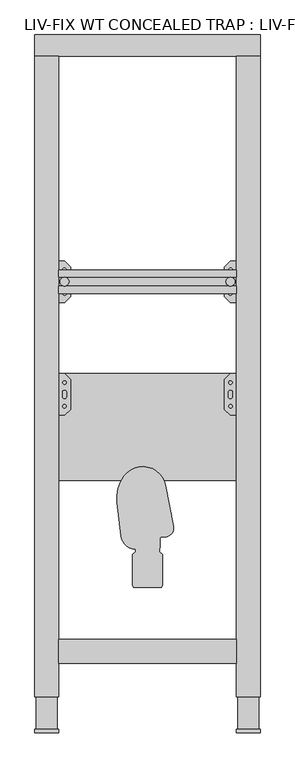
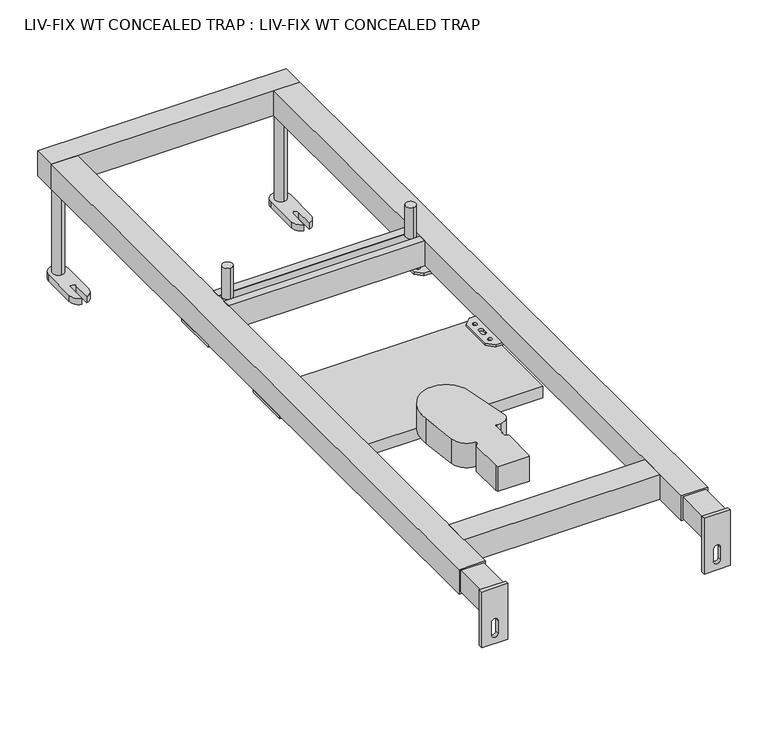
"""IFC4 building model written with IfcOpenShell, lengths in millimetres: flow terminal geometry, LIV-FIX WT CONCEALED TRAP : LIV-FIX WT CONCEALED TRAP."""

from ifc_helpers import new_model, si_unit, point, frame, frame_2d, origin, origin_with_axes, place, context, project, spatial, polyline, circle_curve, trimmed, segment, composite_curve, outline, extrude, source, transform, mapped, element, save
from ifc_brep_helpers import plane_surface, cylinder_surface, revolved_surface, advanced_brep


def liv_fix_wt_concealed_trap_liv_fix_wt_concealed_trap_b806bd56(model_context):
    return source(origin(), model_context, "Body", "SolidModel", [
        advanced_brep(
        [(-51.1296158, 387.8610746, 196.0), (-44.8448136, 331.7187828, 196.0), (-19.9999914, 309.5000073, 196.0), (-19.9999914, 305.0000173, 196.0), (-24.9999985, 300.0000221, 196.0), (-24.9999985, 249.0000081, 196.0), (-23.9282027, 245.0, 196.0), (23.9282027, 245.0, 196.0), (24.9999985, 249.0000081, 196.0), (24.9999985, 300.0000221, 196.0), (20.0004491, 305.0000173, 196.0), (20.0004491, 310.2634387, 196.0), (21.0018908, 312.5002872, 196.0), (21.0018908, 327.4999958, 196.0), (23.0027243, 329.5000048, 196.0), (29.0000066, 329.5000048, 196.0), (43.7379002, 347.291864, 196.0), (30.6884595, 416.3861133, 196.0), (-39.0904022, 432.4424265, 196.0), (-51.1296158, 387.8610746, 156.0), (-39.0904022, 432.4424265, 156.0), (30.6884595, 416.3861133, 156.0), (43.7379002, 347.291864, 156.0), (29.0000057, 329.5000073, 156.0), (23.0027243, 329.5000048, 156.0), (21.0027218, 327.5000023, 156.0), (21.0018908, 312.5002872, 156.0), (20.0004491, 310.2634387, 156.0), (20.0004491, 305.0000173, 156.0), (24.9999985, 300.0000221, 156.0), (24.9999985, 249.0000081, 156.0), (23.9282027, 245.0, 156.0), (-23.9282027, 245.0, 156.0), (-24.9999985, 249.0000081, 156.0), (-24.9999985, 300.0000221, 156.0), (-19.9999914, 305.0000173, 156.0), (-19.9999914, 309.5000073, 156.0), (-44.8448045, 331.7187734, 156.0)],
        [
            (0, 1),
            (1, 2, circle_curve(frame((-19.9999914, 334.5000073, 196.0), z_axis=(0.0, 0.0, 1.0), x_axis=(-1.0, 0.0, 0.0)), 25.0)),
            (2, 3),
            (3, 4),
            (4, 5),
            (5, 6),
            (6, 7),
            (7, 8),
            (8, 9),
            (9, 10),
            (10, 11),
            (11, 12, circle_curve(frame((18.0030261, 312.5002872, 196.0), z_axis=(0.0, 0.0, 1.0), x_axis=(-1.0, 0.0, 0.0)), 2.9988647)),
            (12, 13),
            (13, 14, circle_curve(frame((23.0027243, 327.5000023, 196.0), z_axis=(0.0, 0.0, -1.0), x_axis=(-1.0, 0.0, 0.0)), 2.0000025)),
            (14, 15),
            (15, 16, circle_curve(frame((29.0000057, 344.5000073, 196.0), z_axis=(0.0, 0.0, 1.0), x_axis=(-1.0, 0.0, 0.0)), 15.0)),
            (16, 17),
            (17, 18, circle_curve(frame((-7.7173197, 409.1326306, 196.0), z_axis=(0.0, 0.0, 1.0), x_axis=(-1.0, 0.0, 0.0)), 39.0847399)),
            (18, 0, circle_curve(frame((11.4793141, 394.8697791, 196.0), z_axis=(0.0, 0.0, 1.0), x_axis=(-1.0, 0.0, 0.0)), 63.0000003)),
            (19, 20, circle_curve(frame((11.4793141, 394.8697791, 156.0), z_axis=(0.0, 0.0, -1.0), x_axis=(-1.0, 0.0, 0.0)), 63.0000003)),
            (20, 21, circle_curve(frame((-7.7173197, 409.1326306, 156.0), z_axis=(0.0, 0.0, -1.0), x_axis=(-1.0, 0.0, 0.0)), 39.0847399)),
            (21, 22),
            (22, 23, circle_curve(frame((29.0000057, 344.5000073, 156.0), z_axis=(0.0, 0.0, -1.0), x_axis=(-1.0, 0.0, 0.0)), 15.0)),
            (23, 24),
            (24, 25, circle_curve(frame((23.0027243, 327.5000023, 156.0), z_axis=(0.0, 0.0, 1.0), x_axis=(-1.0, 0.0, 0.0)), 2.0000025)),
            (25, 26),
            (26, 27, circle_curve(frame((18.0030261, 312.5002872, 156.0), z_axis=(0.0, 0.0, -1.0), x_axis=(-1.0, 0.0, 0.0)), 2.9988647)),
            (27, 28),
            (28, 29),
            (29, 30),
            (30, 31),
            (31, 32),
            (32, 33),
            (33, 34),
            (34, 35),
            (35, 36),
            (36, 37, circle_curve(frame((-19.9999914, 334.5000073, 156.0), z_axis=(0.0, 0.0, -1.0), x_axis=(-1.0, 0.0, 0.0)), 25.0)),
            (37, 19),
            (0, 19),
            (37, 1),
            (36, 2),
            (35, 3),
            (34, 4),
            (33, 5),
            (32, 6),
            (31, 7),
            (30, 8),
            (29, 9),
            (28, 10),
            (27, 11),
            (26, 12),
            (25, 13),
            (24, 14),
            (23, 15),
            (22, 16),
            (21, 17),
            (20, 18),
        ],
        [
            plane_surface(frame((-51.1296158, 387.8610746, 196.0), z_axis=(0.0, 0.0, 1.0000000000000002), x_axis=(0.1112492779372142, -0.9937925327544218, 0.0))),
            plane_surface(frame((-51.1296158, 387.8610746, 156.0), z_axis=(0.0, 0.0, -1.0000000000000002), x_axis=(-0.1112492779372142, 0.9937925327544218, 0.0))),
            plane_surface(frame((-51.1296158, 387.8610746, 196.0), z_axis=(-0.9937925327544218, -0.1112492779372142, 0.0), x_axis=(0.0, 0.0, -1.0))),
            cylinder_surface(frame((-19.9999914, 334.5000073, 156.0), z_axis=(0.0, 0.0, 1.0), x_axis=(-1.0, 0.0, 0.0)), 25.0),
            plane_surface(frame((-19.9999914, 309.5000073, 196.0), z_axis=(-1.0, 0.0, 0.0), x_axis=(0.0, 0.0, -1.0))),
            plane_surface(frame((-19.9999914, 305.0000173, 196.0), z_axis=(-0.7071059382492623, 0.707107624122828, 0.0), x_axis=(0.0, 0.0, -1.0))),
            plane_surface(frame((-24.9999985, 300.0000221, 196.0), z_axis=(-1.0, 0.0, 0.0), x_axis=(0.0, 0.0, -1.0))),
            plane_surface(frame((-24.9999985, 249.0000081, 196.0), z_axis=(-0.9659260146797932, -0.2588183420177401, 0.0), x_axis=(0.0, 0.0, -1.0))),
            plane_surface(frame((-23.9282027, 245.0, 196.0), z_axis=(0.0, -1.0, 0.0), x_axis=(0.0, 0.0, -1.0))),
            plane_surface(frame((23.9282027, 245.0, 196.0), z_axis=(0.9659260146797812, -0.2588183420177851, 0.0), x_axis=(0.0, 0.0, -1.0))),
            plane_surface(frame((24.9999985, 249.0000081, 196.0), z_axis=(1.0, 0.0, 0.0), x_axis=(0.0, 0.0, -1.0))),
            plane_surface(frame((24.9999985, 300.0000221, 196.0), z_axis=(0.7071383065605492, 0.7070752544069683, 0.0), x_axis=(0.0, 0.0, -1.0))),
            plane_surface(frame((20.0004491, 305.0000173, 196.0), z_axis=(1.0, 0.0, 0.0), x_axis=(0.0, 0.0, -1.0))),
            cylinder_surface(frame((18.0030261, 312.5002872, 156.0), z_axis=(0.0, 0.0, 1.0), x_axis=(-1.0, 0.0, 0.0)), 2.9988647),
            plane_surface(frame((21.0018908, 312.5002872, 196.0), z_axis=(1.0, 0.0, 0.0), x_axis=(0.0, 0.0, -1.0))),
            revolved_surface(polyline([(21.0027218, 327.5000023, 156.0), (21.0027218, 327.5000023, 196.0)]), (23.0027243, 327.5000023, 156.0), (0.0, 0.0, -1.0)),
            plane_surface(frame((23.0027243, 329.5000048, 196.0), z_axis=(0.0, -1.0, 0.0), x_axis=(0.0, 0.0, -1.0))),
            cylinder_surface(frame((29.0000057, 344.5000073, 156.0), z_axis=(0.0, 0.0, 1.0), x_axis=(-1.0, 0.0, 0.0)), 15.0),
            plane_surface(frame((43.7379002, 347.291864, 196.0), z_axis=(0.982628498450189, 0.1855834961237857, 0.0), x_axis=(0.0, 0.0, -1.0))),
            cylinder_surface(frame((-7.7173197, 409.1326306, 156.0), z_axis=(0.0, 0.0, 1.0), x_axis=(-1.0, 0.0, 0.0)), 39.0847399),
            cylinder_surface(frame((11.4793141, 394.8697791, 156.0), z_axis=(0.0, 0.0, 1.0), x_axis=(-1.0, 0.0, 0.0)), 63.0000003),
        ],
        [
            (0, [[1, 2, 3, 4, 5, 6, 7, 8, 9, 10, 11, 12, 13, 14, 15, 16, 17, 18, 19]]),
            (1, [[20, 21, 22, 23, 24, 25, 26, 27, 28, 29, 30, 31, 32, 33, 34, 35, 36, 37, 38]]),
            (2, [[-1, 39, -38, 40]]),
            (3, [[-2, -40, -37, 41]]),
            (4, [[-3, -41, -36, 42]]),
            (5, [[-4, -42, -35, 43]]),
            (6, [[-5, -43, -34, 44]]),
            (7, [[-6, -44, -33, 45]]),
            (8, [[-7, -45, -32, 46]]),
            (9, [[-8, -46, -31, 47]]),
            (10, [[-9, -47, -30, 48]]),
            (11, [[-10, -48, -29, 49]]),
            (12, [[-11, -49, -28, 50]]),
            (13, [[-12, -50, -27, 51]]),
            (14, [[-13, -51, -26, 52]]),
            (15, [[-14, -52, -25, 53]]),
            (16, [[-15, -53, -24, 54]]),
            (17, [[-16, -54, -23, 55]]),
            (18, [[-17, -55, -22, 56]]),
            (19, [[-18, -56, -21, 57]]),
            (20, [[-19, -57, -20, -39]]),
        ],
    ),
        extrude(outline(composite_curve([segment(trimmed(circle_curve(frame_2d((-140.0, 760.0)), 7.5154833), [point((-140.0, 767.5154833))], [point((-140.0, 752.4845167))], False, "CARTESIAN"), True, "CONTINUOUS"), segment(trimmed(circle_curve(frame_2d((-140.0, 760.0)), 7.5154833), [point((-140.0, 752.4845167))], [point((-140.0, 767.5154833))], False, "CARTESIAN"), True, "CONTINUOUS")], self_intersect=False)), frame((0.0, 0.0, 200.0), z_axis=(0.0, 0.0, 1.0), x_axis=(1.0, 0.0, 0.0)), (0.0, 0.0, 1.0), 50.0),
        extrude(outline(composite_curve([segment(trimmed(circle_curve(frame_2d((140.0, 760.0)), 7.5154833), [point((140.0, 767.5154833))], [point((140.0, 752.4845167))], False, "CARTESIAN"), True, "CONTINUOUS"), segment(trimmed(circle_curve(frame_2d((140.0, 760.0)), 7.5154833), [point((140.0, 752.4845167))], [point((140.0, 767.5154833))], False, "CARTESIAN"), True, "CONTINUOUS")], self_intersect=False)), frame((0.0, 0.0, 200.0), z_axis=(0.0, 0.0, 1.0), x_axis=(1.0, 0.0, 0.0)), (0.0, 0.0, 1.0), 50.0),
        extrude(outline(polyline([(740.0, 200.0), (752.4845167, 200.0), (752.4845167, 198.5), (741.5, 198.5), (741.5, 161.5), (778.5, 161.5), (778.5, 198.5), (767.5154833, 198.5), (767.5154833, 200.0), (780.0, 200.0), (780.0, 160.0), (740.0, 160.0), (740.0, 200.0)])), frame((-150.0, 0.0, 0.0), z_axis=(1.0, 0.0, 0.0), x_axis=(0.0, 1.0, 0.0)), (0.0, 0.0, 1.0), 300.0),
        extrude(outline(polyline([(140.0, 725.0), (130.0, 735.0), (130.0, 785.0), (140.0, 795.0), (190.0, 795.0), (190.0, 725.0), (140.0, 725.0)]), holes=[composite_curve([segment(trimmed(circle_curve(frame_2d((175.0, 760.0)), 4.5), [point((175.0, 755.5))], [point((175.0, 764.5))], True, "CARTESIAN"), True, "CONTINUOUS"), segment(trimmed(circle_curve(frame_2d((175.0, 760.0)), 4.5), [point((175.0, 764.5))], [point((175.0, 755.5))], True, "CARTESIAN"), True, "CONTINUOUS")], self_intersect=False), composite_curve([segment(trimmed(circle_curve(frame_2d((175.0, 780.0)), 4.5), [point((175.0, 775.5))], [point((175.0, 784.5))], True, "CARTESIAN"), True, "CONTINUOUS"), segment(trimmed(circle_curve(frame_2d((175.0, 780.0)), 4.5), [point((175.0, 784.5))], [point((175.0, 775.5))], True, "CARTESIAN"), True, "CONTINUOUS")], self_intersect=False), composite_curve([segment(trimmed(circle_curve(frame_2d((175.0, 740.0)), 4.5), [point((175.0, 735.5))], [point((175.0, 744.5))], True, "CARTESIAN"), True, "CONTINUOUS"), segment(trimmed(circle_curve(frame_2d((175.0, 740.0)), 4.5), [point((175.0, 744.5))], [point((175.0, 735.5))], True, "CARTESIAN"), True, "CONTINUOUS")], self_intersect=False), composite_curve([segment(trimmed(circle_curve(frame_2d((140.0, 780.0)), 2.9795218), [point((140.0, 777.0204782))], [point((140.0, 782.9795218))], True, "CARTESIAN"), True, "CONTINUOUS"), segment(trimmed(circle_curve(frame_2d((140.0, 780.0)), 2.9795218), [point((140.0, 782.9795218))], [point((140.0, 777.0204782))], True, "CARTESIAN"), True, "CONTINUOUS")], self_intersect=False), composite_curve([segment(trimmed(circle_curve(frame_2d((140.0, 740.0)), 2.9795218), [point((140.0, 737.0204782))], [point((140.0, 742.9795218))], True, "CARTESIAN"), True, "CONTINUOUS"), segment(trimmed(circle_curve(frame_2d((140.0, 740.0)), 2.9795218), [point((140.0, 742.9795218))], [point((140.0, 737.0204782))], True, "CARTESIAN"), True, "CONTINUOUS")], self_intersect=False), composite_curve([segment(trimmed(circle_curve(frame_2d((140.0, 763.5)), 3.5), [point((143.5, 763.5))], [point((136.5, 763.5))], True, "CARTESIAN"), True, "CONTINUOUS"), segment(polyline([(136.5, 763.5), (136.5, 756.5)]), True, "CONTINUOUS"), segment(trimmed(circle_curve(frame_2d((140.0, 756.5)), 3.5), [point((136.5, 756.5))], [point((143.5, 756.5))], True, "CARTESIAN"), True, "CONTINUOUS"), segment(polyline([(143.5, 756.5), (143.5, 763.5)]), True, "CONTINUOUS")], self_intersect=False)]), frame((0.0, 0.0, 156.0), z_axis=(0.0, 0.0, 1.0), x_axis=(1.0, 0.0, 0.0)), (0.0, 0.0, 1.0), 4.0),
        extrude(outline(polyline([(-140.0, 725.0), (-190.0, 725.0), (-190.0, 795.0), (-140.0, 795.0), (-130.0, 785.0), (-130.0, 735.0), (-140.0, 725.0)]), holes=[composite_curve([segment(trimmed(circle_curve(frame_2d((-175.0, 760.0)), 4.5), [point((-175.0, 755.5))], [point((-175.0, 764.5))], True, "CARTESIAN"), True, "CONTINUOUS"), segment(trimmed(circle_curve(frame_2d((-175.0, 760.0)), 4.5), [point((-175.0, 764.5))], [point((-175.0, 755.5))], True, "CARTESIAN"), True, "CONTINUOUS")], self_intersect=False), composite_curve([segment(trimmed(circle_curve(frame_2d((-175.0, 780.0)), 4.5), [point((-175.0, 775.5))], [point((-175.0, 784.5))], True, "CARTESIAN"), True, "CONTINUOUS"), segment(trimmed(circle_curve(frame_2d((-175.0, 780.0)), 4.5), [point((-175.0, 784.5))], [point((-175.0, 775.5))], True, "CARTESIAN"), True, "CONTINUOUS")], self_intersect=False), composite_curve([segment(trimmed(circle_curve(frame_2d((-175.0, 740.0)), 4.5), [point((-175.0, 735.5))], [point((-175.0, 744.5))], True, "CARTESIAN"), True, "CONTINUOUS"), segment(trimmed(circle_curve(frame_2d((-175.0, 740.0)), 4.5), [point((-175.0, 744.5))], [point((-175.0, 735.5))], True, "CARTESIAN"), True, "CONTINUOUS")], self_intersect=False), composite_curve([segment(trimmed(circle_curve(frame_2d((-140.0, 780.0)), 2.9795218), [point((-140.0, 777.0204782))], [point((-140.0, 782.9795218))], True, "CARTESIAN"), True, "CONTINUOUS"), segment(trimmed(circle_curve(frame_2d((-140.0, 780.0)), 2.9795218), [point((-140.0, 782.9795218))], [point((-140.0, 777.0204782))], True, "CARTESIAN"), True, "CONTINUOUS")], self_intersect=False), composite_curve([segment(trimmed(circle_curve(frame_2d((-140.0, 740.0)), 2.9795218), [point((-140.0, 737.0204782))], [point((-140.0, 742.9795218))], True, "CARTESIAN"), True, "CONTINUOUS"), segment(trimmed(circle_curve(frame_2d((-140.0, 740.0)), 2.9795218), [point((-140.0, 742.9795218))], [point((-140.0, 737.0204782))], True, "CARTESIAN"), True, "CONTINUOUS")], self_intersect=False), composite_curve([segment(polyline([(-143.5, 763.5), (-143.5, 756.5)]), True, "CONTINUOUS"), segment(trimmed(circle_curve(frame_2d((-140.0, 756.5)), 3.5), [point((-143.5, 756.5))], [point((-136.5, 756.5))], True, "CARTESIAN"), True, "CONTINUOUS"), segment(polyline([(-136.5, 756.5), (-136.5, 763.5)]), True, "CONTINUOUS"), segment(trimmed(circle_curve(frame_2d((-140.0, 763.5)), 3.5), [point((-136.5, 763.5))], [point((-143.5, 763.5))], True, "CARTESIAN"), True, "CONTINUOUS")], self_intersect=False)]), frame((0.0, 0.0, 156.0), z_axis=(0.0, 0.0, 1.0), x_axis=(1.0, 0.0, 0.0)), (0.0, 0.0, 1.0), 4.0),
        extrude(outline(polyline([(149.0, 425.0), (-149.0, 425.0), (-149.0, 605.0), (149.0, 605.0), (149.0, 425.0)])), frame((0.0, 0.0, 138.0), z_axis=(0.0, 0.0, 1.0), x_axis=(1.0, 0.0, 0.0)), (0.0, 0.0, 1.0), 18.0),
        extrude(outline(polyline([(140.0, 535.0), (130.0, 545.0), (130.0, 595.0), (140.0, 605.0), (190.0, 605.0), (190.0, 535.0), (140.0, 535.0)]), holes=[composite_curve([segment(trimmed(circle_curve(frame_2d((175.0, 570.0)), 4.5), [point((175.0, 565.5))], [point((175.0, 574.5))], True, "CARTESIAN"), True, "CONTINUOUS"), segment(trimmed(circle_curve(frame_2d((175.0, 570.0)), 4.5), [point((175.0, 574.5))], [point((175.0, 565.5))], True, "CARTESIAN"), True, "CONTINUOUS")], self_intersect=False), composite_curve([segment(trimmed(circle_curve(frame_2d((175.0, 590.0)), 4.5), [point((175.0, 585.5))], [point((175.0, 594.5))], True, "CARTESIAN"), True, "CONTINUOUS"), segment(trimmed(circle_curve(frame_2d((175.0, 590.0)), 4.5), [point((175.0, 594.5))], [point((175.0, 585.5))], True, "CARTESIAN"), True, "CONTINUOUS")], self_intersect=False), composite_curve([segment(trimmed(circle_curve(frame_2d((175.0, 550.0)), 4.5), [point((175.0, 545.5))], [point((175.0, 554.5))], True, "CARTESIAN"), True, "CONTINUOUS"), segment(trimmed(circle_curve(frame_2d((175.0, 550.0)), 4.5), [point((175.0, 554.5))], [point((175.0, 545.5))], True, "CARTESIAN"), True, "CONTINUOUS")], self_intersect=False), composite_curve([segment(trimmed(circle_curve(frame_2d((140.0, 590.0)), 2.9795218), [point((140.0, 587.0204782))], [point((140.0, 592.9795218))], True, "CARTESIAN"), True, "CONTINUOUS"), segment(trimmed(circle_curve(frame_2d((140.0, 590.0)), 2.9795218), [point((140.0, 592.9795218))], [point((140.0, 587.0204782))], True, "CARTESIAN"), True, "CONTINUOUS")], self_intersect=False), composite_curve([segment(trimmed(circle_curve(frame_2d((140.0, 550.0)), 2.9795218), [point((140.0, 547.0204782))], [point((140.0, 552.9795218))], True, "CARTESIAN"), True, "CONTINUOUS"), segment(trimmed(circle_curve(frame_2d((140.0, 550.0)), 2.9795218), [point((140.0, 552.9795218))], [point((140.0, 547.0204782))], True, "CARTESIAN"), True, "CONTINUOUS")], self_intersect=False), composite_curve([segment(trimmed(circle_curve(frame_2d((140.0, 573.5)), 3.5), [point((143.5, 573.5))], [point((136.5, 573.5))], True, "CARTESIAN"), True, "CONTINUOUS"), segment(polyline([(136.5, 573.5), (136.5, 566.5)]), True, "CONTINUOUS"), segment(trimmed(circle_curve(frame_2d((140.0, 566.5)), 3.5), [point((136.5, 566.5))], [point((143.5, 566.5))], True, "CARTESIAN"), True, "CONTINUOUS"), segment(polyline([(143.5, 566.5), (143.5, 573.5)]), True, "CONTINUOUS")], self_intersect=False)]), frame((0.0, 0.0, 156.0), z_axis=(0.0, 0.0, 1.0), x_axis=(1.0, 0.0, 0.0)), (0.0, 0.0, 1.0), 4.0),
        extrude(outline(polyline([(-140.0, 535.0), (-190.0, 535.0), (-190.0, 605.0), (-140.0, 605.0), (-130.0, 595.0), (-130.0, 545.0), (-140.0, 535.0)]), holes=[composite_curve([segment(trimmed(circle_curve(frame_2d((-175.0, 570.0)), 4.5), [point((-175.0, 565.5))], [point((-175.0, 574.5))], True, "CARTESIAN"), True, "CONTINUOUS"), segment(trimmed(circle_curve(frame_2d((-175.0, 570.0)), 4.5), [point((-175.0, 574.5))], [point((-175.0, 565.5))], True, "CARTESIAN"), True, "CONTINUOUS")], self_intersect=False), composite_curve([segment(trimmed(circle_curve(frame_2d((-175.0, 590.0)), 4.5), [point((-175.0, 585.5))], [point((-175.0, 594.5))], True, "CARTESIAN"), True, "CONTINUOUS"), segment(trimmed(circle_curve(frame_2d((-175.0, 590.0)), 4.5), [point((-175.0, 594.5))], [point((-175.0, 585.5))], True, "CARTESIAN"), True, "CONTINUOUS")], self_intersect=False), composite_curve([segment(trimmed(circle_curve(frame_2d((-175.0, 550.0)), 4.5), [point((-175.0, 545.5))], [point((-175.0, 554.5))], True, "CARTESIAN"), True, "CONTINUOUS"), segment(trimmed(circle_curve(frame_2d((-175.0, 550.0)), 4.5), [point((-175.0, 554.5))], [point((-175.0, 545.5))], True, "CARTESIAN"), True, "CONTINUOUS")], self_intersect=False), composite_curve([segment(trimmed(circle_curve(frame_2d((-140.0, 590.0)), 2.9795218), [point((-140.0, 587.0204782))], [point((-140.0, 592.9795218))], True, "CARTESIAN"), True, "CONTINUOUS"), segment(trimmed(circle_curve(frame_2d((-140.0, 590.0)), 2.9795218), [point((-140.0, 592.9795218))], [point((-140.0, 587.0204782))], True, "CARTESIAN"), True, "CONTINUOUS")], self_intersect=False), composite_curve([segment(trimmed(circle_curve(frame_2d((-140.0, 550.0)), 2.9795218), [point((-140.0, 547.0204782))], [point((-140.0, 552.9795218))], True, "CARTESIAN"), True, "CONTINUOUS"), segment(trimmed(circle_curve(frame_2d((-140.0, 550.0)), 2.9795218), [point((-140.0, 552.9795218))], [point((-140.0, 547.0204782))], True, "CARTESIAN"), True, "CONTINUOUS")], self_intersect=False), composite_curve([segment(polyline([(-143.5, 573.5), (-143.5, 566.5)]), True, "CONTINUOUS"), segment(trimmed(circle_curve(frame_2d((-140.0, 566.5)), 3.5), [point((-143.5, 566.5))], [point((-136.5, 566.5))], True, "CARTESIAN"), True, "CONTINUOUS"), segment(polyline([(-136.5, 566.5), (-136.5, 573.5)]), True, "CONTINUOUS"), segment(trimmed(circle_curve(frame_2d((-140.0, 573.5)), 3.5), [point((-136.5, 573.5))], [point((-143.5, 573.5))], True, "CARTESIAN"), True, "CONTINUOUS")], self_intersect=False)]), frame((0.0, 0.0, 156.0), z_axis=(0.0, 0.0, 1.0), x_axis=(1.0, 0.0, 0.0)), (0.0, 0.0, 1.0), 4.0),
        extrude(outline(composite_curve([segment(trimmed(circle_curve(frame_2d((-170.0, 1156.0)), 8.75), [point((-170.0, 1147.25))], [point((-170.0, 1164.75))], False, "CARTESIAN"), True, "CONTINUOUS"), segment(trimmed(circle_curve(frame_2d((-170.0, 1156.0)), 8.75), [point((-170.0, 1164.75))], [point((-170.0, 1147.25))], False, "CARTESIAN"), True, "CONTINUOUS")], self_intersect=False)), frame((0.0, 0.0, 10.0), z_axis=(0.0, 0.0, 1.0), x_axis=(1.0, 0.0, 0.0)), (0.0, 0.0, 1.0), 150.0),
        extrude(outline(composite_curve([segment(trimmed(circle_curve(frame_2d((170.0, 1156.0)), 8.75), [point((170.0, 1147.25))], [point((170.0, 1164.75))], False, "CARTESIAN"), True, "CONTINUOUS"), segment(trimmed(circle_curve(frame_2d((170.0, 1156.0)), 8.75), [point((170.0, 1164.75))], [point((170.0, 1147.25))], False, "CARTESIAN"), True, "CONTINUOUS")], self_intersect=False)), frame((0.0, 0.0, 10.0), z_axis=(0.0, 0.0, 1.0), x_axis=(1.0, 0.0, 0.0)), (0.0, 0.0, 1.0), 150.0),
        extrude(outline(composite_curve([segment(trimmed(circle_curve(frame_2d((-170.0, 1156.0)), 15.0), [point((-185.0, 1156.0))], [point((-155.0, 1156.0))], False, "CARTESIAN"), True, "CONTINUOUS"), segment(polyline([(-155.0, 1156.0), (-155.0, 1102.0)]), True, "CONTINUOUS"), segment(trimmed(circle_curve(frame_2d((-170.0, 1102.0)), 15.0), [point((-155.0, 1102.0))], [point((-166.0, 1087.5431677))], False, "CARTESIAN"), True, "CONTINUOUS"), segment(polyline([(-166.0, 1087.5431677), (-166.0, 1116.4568323)]), True, "CONTINUOUS"), segment(trimmed(circle_curve(frame_2d((-170.0, 1116.4568323)), 4.0), [point((-166.0, 1116.4568323))], [point((-174.0, 1116.4568323))], True, "CARTESIAN"), True, "CONTINUOUS"), segment(polyline([(-174.0, 1116.4568323), (-174.0, 1087.5431677)]), True, "CONTINUOUS"), segment(trimmed(circle_curve(frame_2d((-170.0, 1102.0)), 15.0), [point((-174.0, 1087.5431677))], [point((-185.0, 1102.0))], False, "CARTESIAN"), True, "CONTINUOUS"), segment(polyline([(-185.0, 1102.0), (-185.0, 1156.0)]), True, "CONTINUOUS")], self_intersect=False)), origin_with_axes(), (0.0, 0.0, 1.0), 10.0),
        extrude(outline(composite_curve([segment(polyline([(185.0, 1156.0), (185.0, 1102.0)]), True, "CONTINUOUS"), segment(trimmed(circle_curve(frame_2d((170.0, 1102.0)), 15.0), [point((185.0, 1102.0))], [point((174.0, 1087.5431677))], False, "CARTESIAN"), True, "CONTINUOUS"), segment(polyline([(174.0, 1087.5431677), (174.0, 1116.4568323)]), True, "CONTINUOUS"), segment(trimmed(circle_curve(frame_2d((170.0, 1116.4568323)), 4.0), [point((174.0, 1116.4568323))], [point((166.0, 1116.4568323))], True, "CARTESIAN"), True, "CONTINUOUS"), segment(polyline([(166.0, 1116.4568323), (166.0, 1087.5431677)]), True, "CONTINUOUS"), segment(trimmed(circle_curve(frame_2d((170.0, 1102.0)), 15.0), [point((166.0, 1087.5431677))], [point((155.0, 1102.0))], False, "CARTESIAN"), True, "CONTINUOUS"), segment(polyline([(155.0, 1102.0), (155.0, 1156.0)]), True, "CONTINUOUS"), segment(trimmed(circle_curve(frame_2d((170.0, 1156.0)), 15.0), [point((155.0, 1156.0))], [point((185.0, 1156.0))], False, "CARTESIAN"), True, "CONTINUOUS")], self_intersect=False)), origin_with_axes(), (0.0, 0.0, 1.0), 10.0),
        extrude(outline(polyline([(-187.5, 549.0), (-152.5, 549.0), (-152.5, 6.0), (-187.5, 6.0), (-187.5, 549.0)])), frame((0.0, 0.0, 162.5), z_axis=(0.0, 0.0, 1.0), x_axis=(1.0, 0.0, 0.0)), (0.0, 0.0, 1.0), 35.0),
        extrude(outline(polyline([(152.4841074, 549.0), (187.4841074, 549.0), (187.4841074, 6.0), (152.4841074, 6.0), (152.4841074, 549.0)])), frame((0.0, 0.0, 162.5), z_axis=(0.0, 0.0, 1.0), x_axis=(1.0, 0.0, 0.0)), (0.0, 0.0, 1.0), 35.0),
        extrude(outline(polyline([(200.0, 190.0), (200.0, 150.0), (110.0, 150.0), (110.0, 190.0), (200.0, 190.0)]), holes=[composite_curve([segment(trimmed(circle_curve(frame_2d((145.0, 170.0)), 5.0), [point((145.0, 165.0))], [point((145.0, 175.0))], True, "CARTESIAN"), True, "CONTINUOUS"), segment(polyline([(145.0, 175.0), (125.0, 175.0)]), True, "CONTINUOUS"), segment(trimmed(circle_curve(frame_2d((125.0, 170.0)), 5.0), [point((125.0, 175.0))], [point((125.0, 165.0))], True, "CARTESIAN"), True, "CONTINUOUS"), segment(polyline([(125.0, 165.0), (145.0, 165.0)]), True, "CONTINUOUS")], self_intersect=False)]), frame((0.0, 0.0, 0.0), z_axis=(0.0, 1.0, 0.0), x_axis=(0.0, 0.0, 1.0)), (0.0, 0.0, 1.0), 6.0),
        extrude(outline(polyline([(200.0, -150.0), (200.0, -190.0), (110.0, -190.0), (110.0, -150.0), (200.0, -150.0)]), holes=[composite_curve([segment(trimmed(circle_curve(frame_2d((145.0, -170.0)), 5.0), [point((145.0, -175.0))], [point((145.0, -165.0))], True, "CARTESIAN"), True, "CONTINUOUS"), segment(polyline([(145.0, -165.0), (125.0, -165.0)]), True, "CONTINUOUS"), segment(trimmed(circle_curve(frame_2d((125.0, -170.0)), 5.0), [point((125.0, -165.0))], [point((125.0, -175.0))], True, "CARTESIAN"), True, "CONTINUOUS"), segment(polyline([(125.0, -175.0), (145.0, -175.0)]), True, "CONTINUOUS")], self_intersect=False)]), frame((0.0, 0.0, 0.0), z_axis=(0.0, 1.0, 0.0), x_axis=(0.0, 0.0, 1.0)), (0.0, 0.0, 1.0), 6.0),
        extrude(outline(polyline([(150.0, 157.0), (150.0, 117.0), (-150.0, 117.0), (-150.0, 157.0), (150.0, 157.0)])), frame((0.0, 0.0, 160.0), z_axis=(0.0, 0.0, 1.0), x_axis=(1.0, 0.0, 0.0)), (0.0, 0.0, 1.0), 40.0),
        extrude(outline(polyline([(-150.0, 60.0), (-190.0, 60.0), (-190.0, 1140.0), (-150.0, 1140.0), (-150.0, 60.0)])), frame((0.0, 0.0, 160.0), z_axis=(0.0, 0.0, 1.0), x_axis=(1.0, 0.0, 0.0)), (0.0, 0.0, 1.0), 40.0),
        extrude(outline(polyline([(190.0, 60.0), (150.0, 60.0), (150.0, 1140.0), (190.0, 1140.0), (190.0, 60.0)])), frame((0.0, 0.0, 160.0), z_axis=(0.0, 0.0, 1.0), x_axis=(1.0, 0.0, 0.0)), (0.0, 0.0, 1.0), 40.0),
        extrude(outline(polyline([(190.0, 1176.0), (190.0, 1140.0), (-190.0, 1140.0), (-190.0, 1176.0), (190.0, 1176.0)])), frame((0.0, 0.0, 160.0), z_axis=(0.0, 0.0, 1.0), x_axis=(1.0, 0.0, 0.0)), (0.0, 0.0, 1.0), 40.0),
    ])


if __name__ == "__main__":
    model = new_model("IFC4")
    model_context = context("Model", 3, world=origin())
    ifc_project = project(units=[si_unit("LENGTHUNIT", "METRE", prefix="MILLI")], contexts=[model_context])
    site = spatial("IfcSite", under=ifc_project)
    building = spatial("IfcBuilding", under=site)
    placement = place(None, origin())
    liv_fix_wt_concealed_trap_liv_fix_wt_concealed_trap_shape = liv_fix_wt_concealed_trap_liv_fix_wt_concealed_trap_b806bd56(model_context)
    element("IfcFlowTerminal", 1, ObjectType="LIV-FIX WT CONCEALED TRAP : LIV-FIX WT CONCEALED TRAP", at=placement, inside=building, context=model_context, shape_type="MappedRepresentation", body=[
        mapped(liv_fix_wt_concealed_trap_liv_fix_wt_concealed_trap_shape, transform((0.0, 0.0, 0.0), x_axis=(1.0, 0.0, 0.0), y_axis=(0.0, 1.0, 0.0), z_axis=(0.0, 0.0, 1.0))),
    ])
    save(model, "model.ifc")
